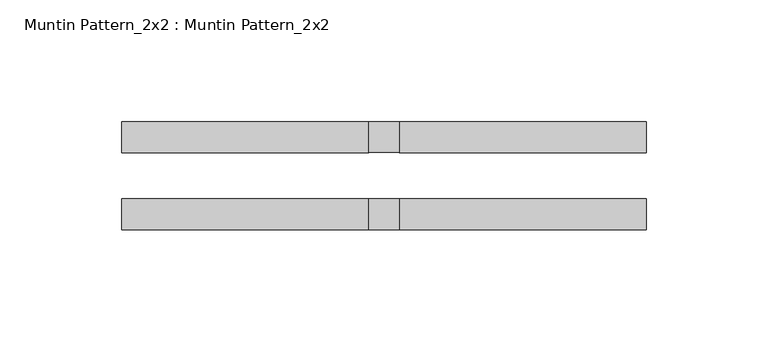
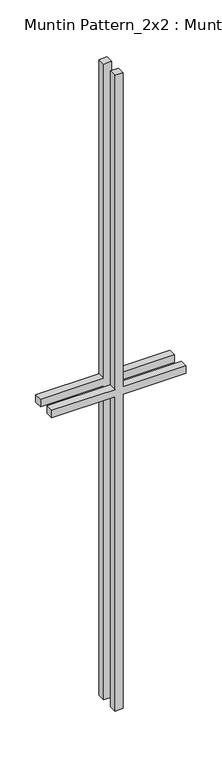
"""IFC4 building model written with IfcOpenShell, lengths in millimetres: proxy geometry, Muntin Pattern_2x2 : Muntin Pattern_2x2."""

from ifc_helpers import new_model, si_unit, frame, origin, place, context, project, spatial, polyline, outline, extrude, source, transform, mapped, element, save


def muntin_pattern_2x2_muntin_pattern_2x2_1c4d2e6b(model_context):
    return source(origin(), model_context, "Body", "SweptSolid", [
        extrude(outline(polyline([(546.1, -6.35), (546.1, -107.95), (533.4, -107.95), (533.4, -6.35), (0.0, -6.35), (0.0, 6.35), (533.4, 6.35), (533.4, 107.95), (546.1, 107.95), (546.1, 6.35), (1079.5, 6.35), (1079.5, -6.35), (546.1, -6.35)])), frame((0.0, 9.525, 0.0), z_axis=(0.0, 1.0, 0.0), x_axis=(0.0, 0.0, 1.0)), (0.0, 0.0, 1.0), 12.7),
        extrude(outline(polyline([(546.1, -6.35), (546.1, -107.95), (533.4, -107.95), (533.4, -6.35), (0.0, -6.35), (0.0, 6.35), (533.4, 6.35), (533.4, 107.95), (546.1, 107.95), (546.1, 6.35), (1079.5, 6.35), (1079.5, -6.35), (546.1, -6.35)])), frame((0.0, -22.225, 0.0), z_axis=(0.0, 1.0, 0.0), x_axis=(0.0, 0.0, 1.0)), (0.0, 0.0, 1.0), 12.7),
    ])


if __name__ == "__main__":
    model = new_model("IFC4")
    model_context = context("Model", 3, world=origin())
    ifc_project = project(units=[si_unit("LENGTHUNIT", "METRE", prefix="MILLI")], contexts=[model_context])
    site = spatial("IfcSite", under=ifc_project)
    building = spatial("IfcBuilding", under=site)
    placement = place(None, origin())
    muntin_pattern_2x2_muntin_pattern_2x2_shape = muntin_pattern_2x2_muntin_pattern_2x2_1c4d2e6b(model_context)
    element("IfcBuildingElementProxy", 1, Name="Muntin Pattern_2x2 : Muntin Pattern_2x2", ObjectType="Muntin Pattern_2x2 : Muntin Pattern_2x2", at=placement, inside=building, context=model_context, shape_type="MappedRepresentation", body=[
        mapped(muntin_pattern_2x2_muntin_pattern_2x2_shape, transform((0.0, 0.0, 0.0), x_axis=(1.0, 0.0, 0.0), y_axis=(0.0, 1.0, 0.0), z_axis=(0.0, 0.0, 1.0))),
    ])
    save(model, "model.ifc")
